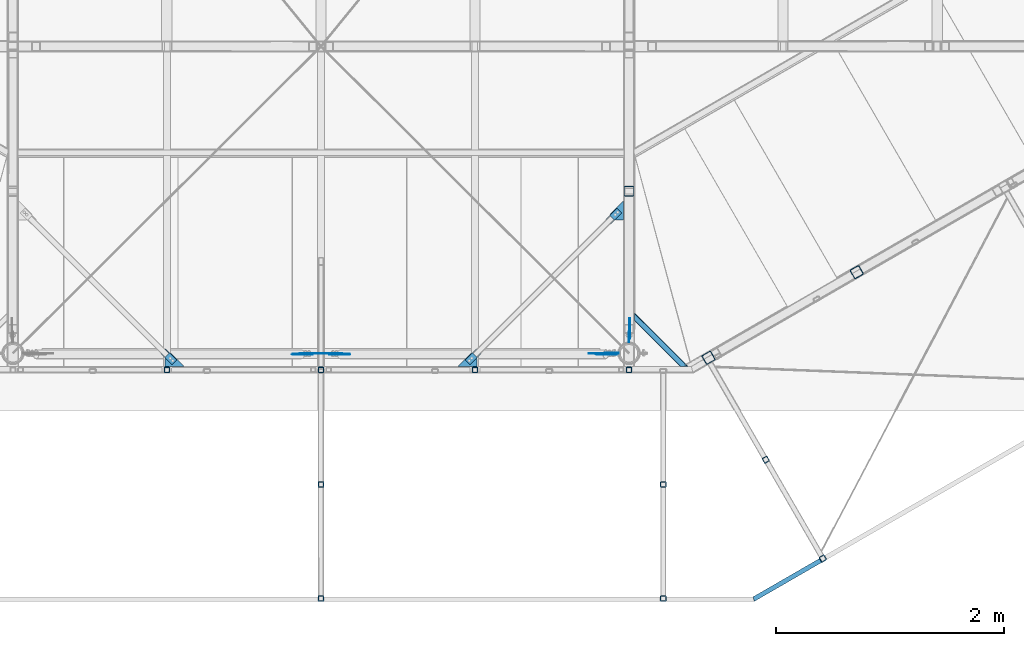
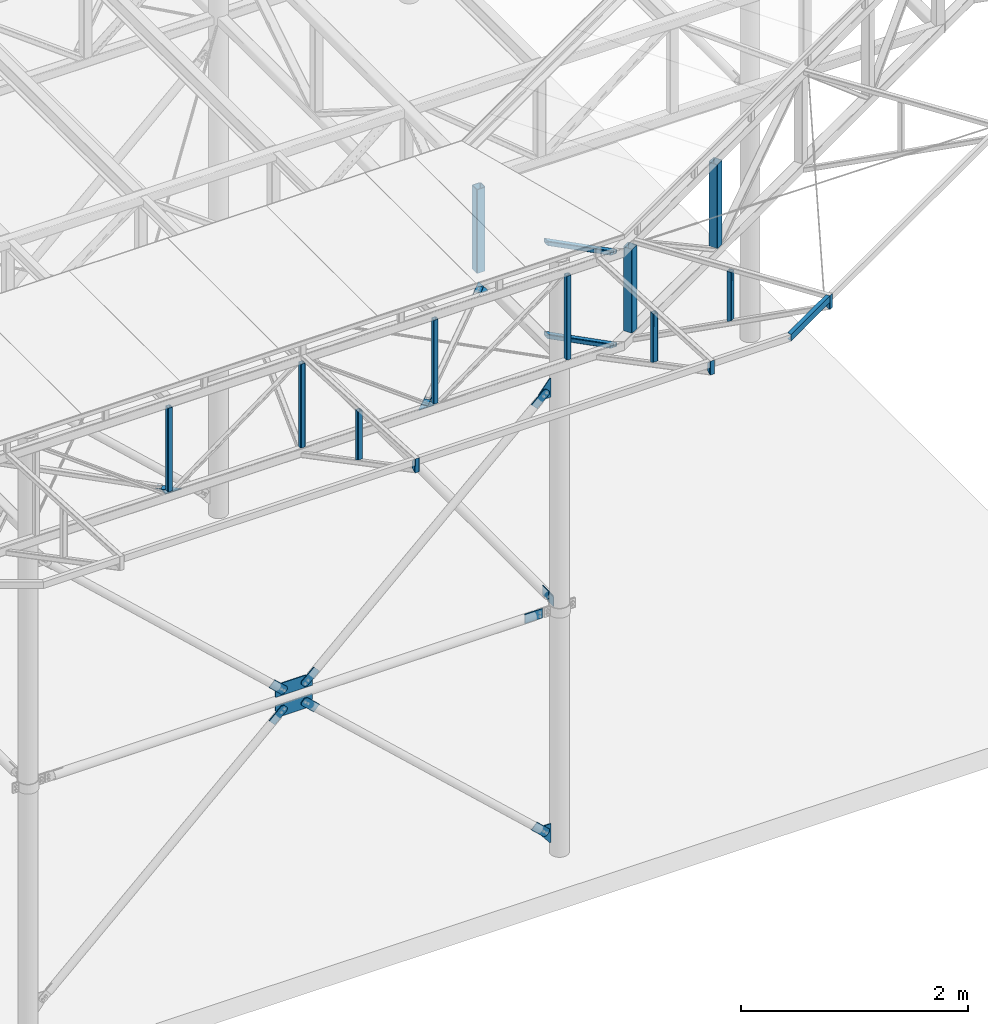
# One storey, part 77 of 132: 35 discrete accessories, 15 elements without a shape of their own.
"""IFC2X3 building model written with IfcOpenShell, lengths in millimetres."""

import ifcopenshell
import ifcopenshell.guid

model = None  # the IFC model being written
_history = None  # IfcOwnerHistory: only IFC2X3 demands one
_inside = {}  # id of a spatial element -> (the spatial element, [elements in it])
_under = {}  # id of a project, library or spatial element -> (it, [spatial elements below it])
_declared = {}  # id of a project -> (the project, [libraries it declares])
_typed = {}  # id of a type object -> (the type object, [elements of that type])
_made_of = {}  # id of a material, layer set ... -> (it, [elements and type objects made of it])


def new_model(schema):
    """Start an empty IFC model of exactly this schema.

    Asked for "IFC4X3", IfcOpenShell would pick the latest addendum, in which some entities
    have other attributes; the version numbers below select the first issue.
    IFC2X3 requires an IfcOwnerHistory on every rooted entity: one is made here for all.
    """
    global model, _history
    if schema == "IFC4X3":
        model = ifcopenshell.file(schema_version=(4, 3, 0, 0))
    else:
        model = ifcopenshell.file(schema=schema)
    _inside.clear()
    _under.clear()
    _declared.clear()
    _typed.clear()
    _made_of.clear()
    _history = None
    if model.schema == "IFC2X3":
        org = make("IfcOrganization", Name="unknown")
        user = make(
            "IfcPersonAndOrganization",
            ThePerson=make("IfcPerson", FamilyName="unknown"),
            TheOrganization=org,
        )
        app = make(
            "IfcApplication",
            ApplicationDeveloper=org,
            Version="unknown",
            ApplicationFullName="unknown",
            ApplicationIdentifier="unknown",
        )
        _history = make(
            "IfcOwnerHistory",
            OwningUser=user,
            OwningApplication=app,
            ChangeAction="ADDED",
            CreationDate=0,
        )
    return model


def make(cls, **values):
    """One entity of the class cls with the attributes given. An attribute that is None is left unset."""
    return model.create_entity(
        cls, **{name: value for name, value in values.items() if value is not None}
    )


def rooted(cls, **values):
    """An entity with a GlobalId (a new one), such as an element, a storey or a relation."""
    return make(cls, GlobalId=ifcopenshell.guid.new(), OwnerHistory=_history, **values)


def si_unit(unit_type, name, prefix=None):
    """IfcSIUnit, for example si_unit("LENGTHUNIT", "METRE", prefix="MILLI")."""
    return make("IfcSIUnit", UnitType=unit_type, Prefix=prefix, Name=name)


def assignment(units):
    """IfcUnitAssignment: the units of a project."""
    return None if units is None else make("IfcUnitAssignment", Units=units)


def point(xyz):
    """IfcCartesianPoint."""
    return None if xyz is None else make("IfcCartesianPoint", Coordinates=xyz)


def direction(xyz):
    """IfcDirection."""
    return None if xyz is None else make("IfcDirection", DirectionRatios=xyz)


def frame(location, z_axis=None, x_axis=None):
    """IfcAxis2Placement3D, a coordinate frame: its origin and axes. An axis left out is left unset."""
    return make(
        "IfcAxis2Placement3D",
        Location=point(location),
        Axis=direction(z_axis),
        RefDirection=direction(x_axis),
    )


def frame_2d(location, x_axis=None):
    """IfcAxis2Placement2D, a coordinate frame in the plane: its origin and x axis."""
    return make(
        "IfcAxis2Placement2D", Location=point(location), RefDirection=direction(x_axis)
    )


def origin_with_axes():
    """The frame at (0, 0, 0) with the z axis (0, 0, 1) and the x axis (1, 0, 0) written out."""
    return frame((0.0, 0.0, 0.0), z_axis=(0.0, 0.0, 1.0), x_axis=(1.0, 0.0, 0.0))


def origin_2d_with_axis():
    """The frame at (0, 0) in the plane with the x axis (1, 0) written out."""
    return frame_2d((0.0, 0.0), x_axis=(1.0, 0.0))


def place(relative_to, where):
    """IfcLocalPlacement: puts the frame where relative to a parent placement (None: the world)."""
    return make(
        "IfcLocalPlacement", PlacementRelTo=relative_to, RelativePlacement=where
    )


def context(
    kind, dimensions, precision=None, world=None, true_north=None, identifier=None
):
    """IfcGeometricRepresentationContext, for example the 3D "Model" context."""
    return make(
        "IfcGeometricRepresentationContext",
        ContextIdentifier=identifier,
        ContextType=kind,
        CoordinateSpaceDimension=dimensions,
        Precision=precision,
        WorldCoordinateSystem=world,
        TrueNorth=true_north,
    )


def subcontext(parent, identifier, kind, view, scale=None):
    """IfcGeometricRepresentationSubContext, for example "Body" below "Model"."""
    return make(
        "IfcGeometricRepresentationSubContext",
        ContextIdentifier=identifier,
        ContextType=kind,
        ParentContext=parent,
        TargetScale=scale,
        TargetView=view,
    )


def project(units=None, contexts=None):
    """IfcProject with its units and contexts."""
    return rooted(
        "IfcProject",
        Name="project",
        RepresentationContexts=contexts,
        UnitsInContext=assignment(units),
    )


def spatial(cls, under=None, at=None, **own):
    """A site, building, storey or space (cls), placed at a placement, below another one or the project."""
    s = rooted(cls, ObjectPlacement=at, **own)
    if under is not None:
        _under.setdefault(under.id(), (under, []))[1].append(s)
    return s


def polyline(points):
    """IfcPolyline through the points."""
    return make("IfcPolyline", Points=[point(p) for p in points])


def profile(cls, at=None, kind="AREA", **sizes):
    """A parametric profile (cls). Its sizes go by their IFC names, for example OverallWidth=200.0."""
    return make(cls, ProfileType=kind, Position=at, **sizes)


def rectangle(**sizes):
    """IfcRectangleProfileDef."""
    return profile("IfcRectangleProfileDef", **sizes)


def hollow_rectangle(**sizes):
    """IfcRectangleHollowProfileDef."""
    return profile("IfcRectangleHollowProfileDef", **sizes)


def u_section(**sizes):
    """IfcUShapeProfileDef."""
    return profile("IfcUShapeProfileDef", **sizes)


def outline(outer, holes=None, kind="AREA"):
    """IfcArbitraryClosedProfileDef: a profile drawn as a closed curve; with holes, ...WithVoids."""
    if holes is None:
        return make("IfcArbitraryClosedProfileDef", ProfileType=kind, OuterCurve=outer)
    return make(
        "IfcArbitraryProfileDefWithVoids",
        ProfileType=kind,
        OuterCurve=outer,
        InnerCurves=holes,
    )


def extrude(swept, where, along, depth):
    """IfcExtrudedAreaSolid: the profile swept, set in the frame where, extruded along a direction by depth."""
    return make(
        "IfcExtrudedAreaSolid",
        SweptArea=swept,
        Position=where,
        ExtrudedDirection=direction(along),
        Depth=depth,
    )


def boolean(op, a, b):
    """IfcBooleanResult of two solids."""
    return make("IfcBooleanResult", Operator=op, FirstOperand=a, SecondOperand=b)


def clip(a, b, op="DIFFERENCE"):
    """IfcBooleanClippingResult: the solid a cut by the half space b."""
    return make(
        "IfcBooleanClippingResult", Operator=op, FirstOperand=a, SecondOperand=b
    )


def halfspace(plane, agree):
    """IfcHalfSpaceSolid: all space on one side of the plane z = 0 of the frame plane."""
    return make(
        "IfcHalfSpaceSolid",
        BaseSurface=make("IfcPlane", Position=plane),
        AgreementFlag=agree,
    )


def shape(context_of_items, identifier, shape_type, items):
    """IfcShapeRepresentation: the items that make up one representation, for example the "Body"."""
    return make(
        "IfcShapeRepresentation",
        ContextOfItems=context_of_items,
        RepresentationIdentifier=identifier,
        RepresentationType=shape_type,
        Items=items,
    )


def material(Name=None, Category=None):
    """IfcMaterial."""
    return make("IfcMaterial", Name=Name, Category=Category)


def made_of(thing, what):
    """Note that an element or type object is made of a material, layer set ...; save() writes the relation."""
    if what is not None:
        _made_of.setdefault(what.id(), (what, []))[1].append(thing)
    return thing


def type_object(cls, material=None, **own):
    """A type object (cls), such as IfcWallType, which elements share."""
    return made_of(rooted(cls, **own), material)


def element(
    cls,
    number,
    at=None,
    inside=None,
    cuts=None,
    type_object=None,
    material=None,
    context=None,
    identifier="Body",
    shape_type=None,
    held_by="IfcProductDefinitionShape",
    body=None,
    shapes=None,
    **own,
):
    """One element of the class cls, such as IfcWall. Its Tag is "e" and its number.

    at: its placement. inside: the storey or other place that contains it. cuts: it is an
    opening in that element (IfcRelVoidsElement). A single representation is given by context,
    identifier, shape_type and body (its items); several are given by shapes. held_by: the class
    of the entity that holds the representations. save() writes the other relations.
    """
    e = rooted(cls, Tag="e%d" % number, ObjectPlacement=at, **own)
    if body is not None:
        shapes = [shape(context, identifier, shape_type, body)]
    if shapes is not None:
        e.Representation = make(held_by, Representations=shapes)
    if inside is not None:
        _inside.setdefault(inside.id(), (inside, []))[1].append(e)
    if cuts is not None:
        rooted(
            "IfcRelVoidsElement", RelatingBuildingElement=cuts, RelatedOpeningElement=e
        )
    if type_object is not None:
        _typed.setdefault(type_object.id(), (type_object, []))[1].append(e)
    return made_of(e, material)


def aggregate(whole, parts):
    """IfcRelAggregates: a whole, such as a stair, and the parts it consists of."""
    return rooted("IfcRelAggregates", RelatingObject=whole, RelatedObjects=parts)


def save(model, path):
    """Write the relations noted so far, then the file.

    IfcRelAggregates (storeys below a building ...), IfcRelContainedInSpatialStructure (elements
    in a storey), IfcRelDefinesByType, IfcRelAssociatesMaterial and IfcRelDeclares: one each for
    every whole, place, type object, material and project.
    """
    for whole, parts in _under.values():
        aggregate(whole, parts)
    for where, things in _inside.values():
        rooted(
            "IfcRelContainedInSpatialStructure",
            RelatedElements=things,
            RelatingStructure=where,
        )
    for kind, things in _typed.values():
        rooted("IfcRelDefinesByType", RelatedObjects=things, RelatingType=kind)
    for what, things in _made_of.values():
        rooted("IfcRelAssociatesMaterial", RelatedObjects=things, RelatingMaterial=what)
    for by, libraries in _declared.values():
        rooted("IfcRelDeclares", RelatingContext=by, RelatedDefinitions=libraries)
    model.write(path)


model = new_model("IFC2X3")

# Units and contexts
model_context = context("Model", 3, precision=1e-05, world=origin_with_axes())
body_context = subcontext(model_context, "Body", "Model", "MODEL_VIEW")
ifc_project = project(units=[si_unit("LENGTHUNIT", "METRE", prefix="MILLI"), si_unit("AREAUNIT", "SQUARE_METRE"), si_unit("VOLUMEUNIT", "CUBIC_METRE"), si_unit("MASSUNIT", "GRAM", prefix="KILO"), si_unit("TIMEUNIT", "SECOND"), si_unit("PLANEANGLEUNIT", "RADIAN"), si_unit("SOLIDANGLEUNIT", "STERADIAN"), si_unit("THERMODYNAMICTEMPERATUREUNIT", "DEGREE_CELSIUS"), si_unit("LUMINOUSINTENSITYUNIT", "LUMEN")], contexts=[model_context])

# Site, building, storey
site_placement = place(None, origin_with_axes())
site = spatial("IfcSite", under=ifc_project, at=site_placement, Name="Budowa", CompositionType="ELEMENT")
building_placement = place(site_placement, origin_with_axes())
building = spatial("IfcBuilding", under=site, at=building_placement, Name="Undefined", CompositionType="ELEMENT")
storey_placement = place(building_placement, origin_with_axes())
storey = spatial("IfcBuildingStorey", under=building, at=storey_placement, Name="Undefined", CompositionType="ELEMENT", Elevation=0.0)

# Assembly, discrete accessory
assembly_1_placement = place(storey_placement, origin_with_axes())
assembly_1 = element("IfcElementAssembly", 1, at=assembly_1_placement, inside=storey, Name="Steel Assembly", AssemblyPlace="NOTDEFINED", PredefinedType="RIGID_FRAME")
ifc_material = material(Name="STEEL/S235")
discrete_accessory_type_1 = type_object("IfcDiscreteAccessoryType", Name="BLACHA")
discrete_accessory_1_placement = place(assembly_1_placement, frame((12311.4051663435, -2.00000288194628, 10071.5503790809), z_axis=(0.0, -1.0, 0.0), x_axis=(-1.0, 0.0, 0.0)))
discrete_accessory_1 = element("IfcDiscreteAccessory", 2, at=discrete_accessory_1_placement, type_object=discrete_accessory_type_1, material=ifc_material, Name="BLACHA", ObjectType="BL8*133", context=body_context, shape_type="SweptSolid", body=[
    extrude(outline(polyline([(0.0, 0.0), (372.807678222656, 0.0), (372.807678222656, 62.396900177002), (307.666687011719, 132.913940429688), (65.1409759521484, 132.913940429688), (0.0, 62.396900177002), (0.0, 0.0)])), frame((0.0, 0.0, -4.0), z_axis=(0.0, 0.0, 1.0), x_axis=(1.0, 0.0, 0.0)), (0.0, 0.0, 1.0), 8.0),
])

assembly_2_placement = place(storey_placement, origin_with_axes())
assembly_2 = element("IfcElementAssembly", 3, at=assembly_2_placement, inside=storey, Name="Steel Assembly", AssemblyPlace="NOTDEFINED", PredefinedType="RIGID_FRAME")
discrete_accessory_2_placement = place(assembly_2_placement, frame((12256.5937293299, -10.0000028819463, 10052.9793451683), z_axis=(0.0, -1.0, 0.0), x_axis=(-0.999215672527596, 0.0, -0.0395984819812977)))
discrete_accessory_2 = element("IfcDiscreteAccessory", 4, at=discrete_accessory_2_placement, type_object=discrete_accessory_type_1, material=ifc_material, Name="BLACHA", ObjectType="BL8*86", context=body_context, shape_type="SweptSolid", body=[
    extrude(outline(polyline([(0.0, 0.0), (28.2842712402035, 3.27418092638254e-11), (60.8111839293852, 32.5269126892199), (60.8111839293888, 60.8111839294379), (-59.3969688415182, 181.019332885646), (-120.20815277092, 120.208152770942), (0.0, 0.0)])), frame((0.0, 0.0, -4.0), z_axis=(0.0, 0.0, 1.0), x_axis=(1.0, 0.0, 0.0)), (0.0, 0.0, 1.0), 8.0),
])

assembly_3_placement = place(storey_placement, origin_with_axes())
assembly_3 = element("IfcElementAssembly", 5, at=assembly_3_placement, inside=storey, Name="Steel Assembly", AssemblyPlace="NOTDEFINED", PredefinedType="RIGID_FRAME")
discrete_accessory_3_placement = place(assembly_3_placement, frame((12051.7643931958, -10.0000028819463, 9989.80782337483), z_axis=(0.0, -1.0, 0.0), x_axis=(0.0395984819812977, 0.0, 0.999215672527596)))
discrete_accessory_3 = element("IfcDiscreteAccessory", 6, at=discrete_accessory_3_placement, type_object=discrete_accessory_type_1, material=ifc_material, Name="BLACHA", ObjectType="BL8*86", context=body_context, shape_type="SweptSolid", body=[
    extrude(outline(polyline([(0.0, 0.0), (28.2842712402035, 3.27418092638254e-11), (60.8111839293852, 32.5269126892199), (60.8111839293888, 60.8111839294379), (-59.3969688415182, 181.019332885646), (-120.20815277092, 120.208152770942), (0.0, 0.0)])), frame((0.0, 0.0, -4.0), z_axis=(0.0, 0.0, 1.0), x_axis=(1.0, 0.0, 0.0)), (0.0, 0.0, 1.0), 8.0),
])
aggregate(assembly_3, [discrete_accessory_3])

assembly_4_placement = place(storey_placement, origin_with_axes())
assembly_4 = element("IfcElementAssembly", 7, at=assembly_4_placement, inside=storey, Name="Steel Assembly", AssemblyPlace="NOTDEFINED", PredefinedType="RIGID_FRAME")
discrete_accessory_4_placement = place(assembly_4_placement, frame((11993.4089373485, -10.0000031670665, 10179.021413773), z_axis=(0.0, -1.0, 0.0), x_axis=(0.999215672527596, 0.0, 0.0395984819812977)))
discrete_accessory_4 = element("IfcDiscreteAccessory", 8, at=discrete_accessory_4_placement, type_object=discrete_accessory_type_1, material=ifc_material, Name="BLACHA", ObjectType="BL8*86", context=body_context, shape_type="SweptSolid", body=[
    extrude(outline(polyline([(0.0, 0.0), (28.2842712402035, 3.27418092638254e-11), (60.8111839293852, 32.5269126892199), (60.8111839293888, 60.8111839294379), (-59.3969688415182, 181.019332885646), (-120.20815277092, 120.208152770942), (0.0, 0.0)])), frame((0.0, 0.0, -4.0), z_axis=(0.0, 0.0, 1.0), x_axis=(1.0, 0.0, 0.0)), (0.0, 0.0, 1.0), 8.0),
])
aggregate(assembly_4, [discrete_accessory_4])

assembly_5_placement = place(storey_placement, origin_with_axes())
assembly_5 = element("IfcElementAssembly", 9, at=assembly_5_placement, inside=storey, Name="Steel Assembly", AssemblyPlace="NOTDEFINED", PredefinedType="RIGID_FRAME")
discrete_accessory_5_placement = place(assembly_5_placement, frame((12198.2382714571, -10.0000031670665, 10242.1929274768), z_axis=(0.0, -1.0, 0.0), x_axis=(-0.0395984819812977, 0.0, -0.999215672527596)))
discrete_accessory_5 = element("IfcDiscreteAccessory", 10, at=discrete_accessory_5_placement, type_object=discrete_accessory_type_1, material=ifc_material, Name="BLACHA", ObjectType="BL8*86", context=body_context, shape_type="SweptSolid", body=[
    extrude(outline(polyline([(0.0, 0.0), (28.2842712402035, 3.27418092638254e-11), (60.8111839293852, 32.5269126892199), (60.8111839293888, 60.8111839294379), (-59.3969688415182, 181.019332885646), (-120.20815277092, 120.208152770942), (0.0, 0.0)])), frame((0.0, 0.0, -4.0), z_axis=(0.0, 0.0, 1.0), x_axis=(1.0, 0.0, 0.0)), (0.0, 0.0, 1.0), 8.0),
])

# Discrete accessory
discrete_accessory_6_placement = place(assembly_1_placement, frame((11938.5974989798, -2.00000316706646, 10160.4503767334), z_axis=(0.0, -1.0, 0.0), x_axis=(1.0, 0.0, 0.0)))
discrete_accessory_6 = element("IfcDiscreteAccessory", 11, at=discrete_accessory_6_placement, type_object=discrete_accessory_type_1, material=ifc_material, Name="BLACHA", ObjectType="BL8*133", context=body_context, shape_type="SweptSolid", body=[
    extrude(outline(polyline([(0.0, 0.0), (372.807678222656, 0.0), (372.807678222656, 62.396900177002), (307.666687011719, 132.913940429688), (65.1409759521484, 132.913940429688), (0.0, 62.396900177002), (0.0, 0.0)])), frame((0.0, 0.0, -4.0), z_axis=(0.0, 0.0, 1.0), x_axis=(1.0, 0.0, 0.0)), (0.0, 0.0, 1.0), 8.0),
])

# Assembly, discrete accessory
assembly_6_placement = place(storey_placement, origin_with_axes())
assembly_6 = element("IfcElementAssembly", 12, at=assembly_6_placement, inside=storey, Name="Steel Assembly", AssemblyPlace="NOTDEFINED", PredefinedType="RIGID_FRAME")
discrete_accessory_7_placement = place(assembly_6_placement, frame((14832.9999969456, 127.907905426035, 10116.0003779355), z_axis=(-1.0, 0.0, 0.0), x_axis=(0.0, 1.0, 0.0)))
discrete_accessory_7 = element("IfcDiscreteAccessory", 13, at=discrete_accessory_7_placement, type_object=discrete_accessory_type_1, material=ifc_material, Name="BLACHA", ObjectType="BL8*100", context=body_context, shape_type="SweptSolid", body=[
    extrude(outline(polyline([(0.0, 50.0), (180.0, 50.0), (180.0, -50.0), (0.0, -50.0), (0.0, 50.0)])), frame((0.0, 0.0, -4.0), z_axis=(0.0, 0.0, 1.0), x_axis=(1.0, 0.0, 0.0)), (0.0, 0.0, 1.0), 8.0),
])
aggregate(assembly_6, [discrete_accessory_7])

assembly_7_placement = place(storey_placement, origin_with_axes())
assembly_7 = element("IfcElementAssembly", 14, at=assembly_7_placement, inside=storey, Name="Steel Assembly", AssemblyPlace="NOTDEFINED", PredefinedType="RIGID_FRAME")
discrete_accessory_8_placement = place(assembly_7_placement, frame((14824.9999969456, 97.9956434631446, 10166.0003762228), z_axis=(1.0, 0.0, 0.0), x_axis=(0.0, 0.0, -1.0)))
discrete_accessory_8 = element("IfcDiscreteAccessory", 15, at=discrete_accessory_8_placement, type_object=discrete_accessory_type_1, material=ifc_material, Name="BLACHA", ObjectType="BL8*90", context=body_context, shape_type="SweptSolid", body=[
    extrude(outline(polyline([(0.0, 0.0), (100.0, 0.0), (100.0, 89.9122619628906), (0.0, 89.9122619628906), (0.0, 0.0)])), frame((0.0, 0.0, -4.0), z_axis=(0.0, 0.0, 1.0), x_axis=(1.0, 0.0, 0.0)), (0.0, 0.0, 1.0), 8.0),
])
aggregate(assembly_7, [discrete_accessory_8])

# Discrete accessory
discrete_accessory_9_placement = place(assembly_1_placement, frame((14651.863305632, -2.00000054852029, 10116.0003779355), z_axis=(0.0, 1.0, 0.0), x_axis=(-1.0, 0.0, 0.0)))
discrete_accessory_9 = element("IfcDiscreteAccessory", 16, at=discrete_accessory_9_placement, type_object=discrete_accessory_type_1, material=ifc_material, Name="BLACHA", ObjectType="BL8*100", context=body_context, shape_type="SweptSolid", body=[
    extrude(outline(polyline([(180.0, -50.0), (0.0, -50.0), (0.0, 50.0), (180.0, 50.0), (180.0, -50.0)])), frame((0.0, 0.0, -4.0), z_axis=(0.0, 0.0, 1.0), x_axis=(1.0, 0.0, 0.0)), (0.0, 0.0, 1.0), 8.0),
])

aggregate(assembly_1, [discrete_accessory_1, discrete_accessory_6, discrete_accessory_9])

discrete_accessory_10_placement = place(assembly_5_placement, frame((14702.6899626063, -10.0000023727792, 12497.1715521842), z_axis=(-0.678551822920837, 0.0, 0.734552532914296), x_axis=(-0.734552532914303, 0.0, -0.67855182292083)))
discrete_accessory_10 = element("IfcDiscreteAccessory", 17, at=discrete_accessory_10_placement, type_object=discrete_accessory_type_1, material=ifc_material, Name="BLACHA", ObjectType="BL8*86", context=body_context, shape_type="CSG", body=[
    boolean("DIFFERENCE", boolean("DIFFERENCE", extrude(rectangle(XDim=8.0, YDim=86.0, at=origin_2d_with_axis()), frame((190.000000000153, -3.63797880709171e-12, 3.30513394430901e-13), z_axis=(-1.0, 0.0, 0.0), x_axis=(0.0, -1.0, 0.0)), (0.0, 0.0, 1.0), 190.0), extrude(outline(polyline([(0.0, 0.0), (20.0000000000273, -3.63797880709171e-12), (5.45696821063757e-12, 20.0000000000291), (0.0, 0.0)])), frame((-1.81898940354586e-12, -6.50000242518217, -42.9999999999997), z_axis=(0.0, 1.0, 0.0), x_axis=(0.0, 0.0, 1.0)), (0.0, 0.0, 1.0), 13.0)), extrude(outline(polyline([(0.0, 0.0), (20.0000000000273, -3.63797880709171e-12), (5.45696821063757e-12, 20.0000000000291), (0.0, 0.0)])), frame((-1.81898940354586e-12, 6.49999757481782, 42.9999999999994), z_axis=(0.0, -1.0, 0.0), x_axis=(0.0, 0.0, -1.0)), (0.0, 0.0, 1.0), 13.0)),
])

aggregate(assembly_5, [discrete_accessory_5, discrete_accessory_10])

# Assembly, discrete accessory
assembly_8_placement = place(storey_placement, origin_with_axes())
assembly_8 = element("IfcElementAssembly", 18, at=assembly_8_placement, inside=storey, Name="Steel Assembly", AssemblyPlace="NOTDEFINED", PredefinedType="RIGID_FRAME")
discrete_accessory_11_placement = place(assembly_8_placement, frame((14736.1000002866, -0.000999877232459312, 12407.0002670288), z_axis=(0.0, -1.0, 0.0), x_axis=(0.0, 0.0, 1.0)))
discrete_accessory_11 = element("IfcDiscreteAccessory", 19, at=discrete_accessory_11_placement, type_object=discrete_accessory_type_1, material=ifc_material, Name="BLACHA", ObjectType="BL8*126", context=body_context, shape_type="SweptSolid", body=[
    extrude(outline(polyline([(0.0, 0.0), (203.000061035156, 0.0), (203.000061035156, 10.0), (58.0005645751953, 125.999824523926), (-1.72803993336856e-10, 72.998420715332), (0.0, 0.0)])), frame((0.0, 0.0, -4.0), z_axis=(0.0, 0.0, 1.0), x_axis=(1.0, 0.0, 0.0)), (0.0, 0.0, 1.0), 8.0),
])

# Discrete accessory
discrete_accessory_12_placement = place(assembly_2_placement, frame((14702.689963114, -10.0000026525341, 7734.82920317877), z_axis=(0.678551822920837, 0.0, 0.734552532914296), x_axis=(-0.734552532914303, 0.0, 0.67855182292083)))
discrete_accessory_12 = element("IfcDiscreteAccessory", 20, at=discrete_accessory_12_placement, type_object=discrete_accessory_type_1, material=ifc_material, Name="BLACHA", ObjectType="BL8*86", context=body_context, shape_type="CSG", body=[
    boolean("DIFFERENCE", boolean("DIFFERENCE", extrude(rectangle(XDim=8.0, YDim=86.0, at=origin_2d_with_axis()), frame((190.000000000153, -3.63797880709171e-12, 3.30513394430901e-13), z_axis=(-1.0, 0.0, 0.0), x_axis=(0.0, -1.0, 0.0)), (0.0, 0.0, 1.0), 190.0), extrude(outline(polyline([(0.0, 0.0), (20.0000000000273, -3.63797880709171e-12), (5.45696821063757e-12, 20.0000000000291), (0.0, 0.0)])), frame((-1.81898940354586e-12, 6.49999757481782, 42.9999999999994), z_axis=(0.0, -1.0, 0.0), x_axis=(0.0, 0.0, -1.0)), (0.0, 0.0, 1.0), 13.0)), extrude(outline(polyline([(0.0, 0.0), (20.0000000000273, -3.63797880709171e-12), (5.45696821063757e-12, 20.0000000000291), (0.0, 0.0)])), frame((-1.81898940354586e-12, -6.50000242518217, -42.9999999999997), z_axis=(0.0, 1.0, 0.0), x_axis=(0.0, 0.0, 1.0)), (0.0, 0.0, 1.0), 13.0)),
])

aggregate(assembly_2, [discrete_accessory_2, discrete_accessory_12])

discrete_accessory_13_placement = place(assembly_8_placement, frame((14736.1000003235, -0.000999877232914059, 7622.0004196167), z_axis=(0.0, -1.0, 0.0), x_axis=(0.0, 0.0, 1.0)))
discrete_accessory_13 = element("IfcDiscreteAccessory", 21, at=discrete_accessory_13_placement, type_object=discrete_accessory_type_1, material=ifc_material, Name="BLACHA", ObjectType="BL8*126", context=body_context, shape_type="SweptSolid", body=[
    extrude(outline(polyline([(0.0, 0.0), (203.000061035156, 0.0), (203.000076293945, 72.998420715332), (145.000457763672, 125.999824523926), (0.0, 10.0), (0.0, 0.0)])), frame((0.0, 0.0, -4.0), z_axis=(0.0, 0.0, 1.0), x_axis=(1.0, 0.0, 0.0)), (0.0, 0.0, 1.0), 8.0),
])

aggregate(assembly_8, [discrete_accessory_11, discrete_accessory_13])

# Assembly, discrete accessory
assembly_9_placement = place(storey_placement, origin_with_axes())
assembly_9 = element("IfcElementAssembly", 22, at=assembly_9_placement, inside=storey, Name="Steel Assembly", AssemblyPlace="NOTDEFINED", PredefinedType="RIGID_FRAME")
discrete_accessory_14_placement = place(assembly_9_placement, frame((13488.1949511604, 40.521358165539, 12830.0), z_axis=(0.0, 0.0, 1.0), x_axis=(-0.70710678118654, -0.707106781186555, 0.0)))
discrete_accessory_14 = element("IfcDiscreteAccessory", 23, at=discrete_accessory_14_placement, type_object=discrete_accessory_type_1, material=ifc_material, Name="BLACHA", ObjectType="BL6*60", context=body_context, shape_type="SweptSolid", body=[
    extrude(outline(polyline([(0.0, 0.0), (139.99999999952, -6.2755134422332e-10), (139.99999999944, 59.9999999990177), (0.0, 60.0), (-8.00355337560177e-11, 54.9999999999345), (49.9999999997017, 54.9999999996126), (49.9999999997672, 4.99999999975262), (-8.73114913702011e-11, 5.00000000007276), (0.0, 0.0)])), frame((0.0, 0.0, -3.0), z_axis=(0.0, 0.0, 1.0), x_axis=(1.0, 0.0, 0.0)), (0.0, 0.0, 1.0), 6.0),
])

assembly_10_placement = place(storey_placement, origin_with_axes())
assembly_10 = element("IfcElementAssembly", 24, at=assembly_10_placement, inside=storey, Name="Steel Assembly", AssemblyPlace="NOTDEFINED", PredefinedType="RIGID_FRAME")
discrete_accessory_15_placement = place(assembly_10_placement, frame((13325.7025252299, -114.899999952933, 12824.0), z_axis=(0.0, 0.0, 1.0), x_axis=(1.0, 0.0, 0.0)))
discrete_accessory_15 = element("IfcDiscreteAccessory", 25, at=discrete_accessory_15_placement, type_object=discrete_accessory_type_1, material=ifc_material, Name="BLACHA", ObjectType="BL6*117", context=body_context, shape_type="SweptSolid", body=[
    extrude(outline(polyline([(0.0, 0.0), (166.027954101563, 0.0), (166.027954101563, 67.0330123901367), (116.530487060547, 116.530487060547), (0.0, 0.0)])), frame((0.0, 0.0, -3.0), z_axis=(0.0, 0.0, 1.0), x_axis=(1.0, 0.0, 0.0)), (0.0, 0.0, 1.0), 6.0),
])

# Discrete accessory
discrete_accessory_16_placement = place(assembly_9_placement, frame((14662.0050487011, 1129.47864196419, 12830.0), z_axis=(0.0, 0.0, 1.0), x_axis=(0.707106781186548, 0.707106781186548, 0.0)))
discrete_accessory_16 = element("IfcDiscreteAccessory", 26, at=discrete_accessory_16_placement, type_object=discrete_accessory_type_1, material=ifc_material, Name="BLACHA", ObjectType="BL6*60", context=body_context, shape_type="SweptSolid", body=[
    extrude(outline(polyline([(0.0, 0.0), (139.99999999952, -6.2755134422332e-10), (139.99999999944, 59.9999999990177), (0.0, 60.0), (-8.00355337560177e-11, 54.9999999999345), (49.9999999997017, 54.9999999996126), (49.9999999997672, 4.99999999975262), (-8.73114913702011e-11, 5.00000000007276), (0.0, 0.0)])), frame((0.0, 0.0, -3.0), z_axis=(0.0, 0.0, 1.0), x_axis=(1.0, 0.0, 0.0)), (0.0, 0.0, 1.0), 6.0),
])

aggregate(assembly_9, [discrete_accessory_14, discrete_accessory_16])

discrete_accessory_17_placement = place(assembly_10_placement, frame((14774.999999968, 1168.36951682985, 12824.0), z_axis=(0.0, 0.0, 1.0), x_axis=(0.0, 1.0, 0.0)))
discrete_accessory_17 = element("IfcDiscreteAccessory", 27, at=discrete_accessory_17_placement, type_object=discrete_accessory_type_1, material=ifc_material, Name="BLACHA", ObjectType="BL6*117", context=body_context, shape_type="SweptSolid", body=[
    extrude(outline(polyline([(0.0, 0.0), (166.027954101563, 0.0), (49.4974746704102, 116.530487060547), (0.0, 67.0330123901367), (0.0, 0.0)])), frame((0.0, 0.0, -3.0), z_axis=(0.0, 0.0, 1.0), x_axis=(1.0, 0.0, 0.0)), (0.0, 0.0, 1.0), 6.0),
])

# Assembly, discrete accessory
assembly_11_placement = place(storey_placement, origin_with_axes())
assembly_11 = element("IfcElementAssembly", 28, at=assembly_11_placement, inside=storey, Name="Steel Assembly", AssemblyPlace="NOTDEFINED", PredefinedType="RIGID_FRAME")
discrete_accessory_18_placement = place(assembly_11_placement, frame((10719.3786418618, -1.90504868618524, 12830.0), z_axis=(0.0, 0.0, 1.0), x_axis=(0.707106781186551, -0.707106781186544, 0.0)))
discrete_accessory_18 = element("IfcDiscreteAccessory", 29, at=discrete_accessory_18_placement, type_object=discrete_accessory_type_1, material=ifc_material, Name="BLACHA", ObjectType="BL6*60", context=body_context, shape_type="SweptSolid", body=[
    extrude(outline(polyline([(0.0, 0.0), (139.99999999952, -6.2755134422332e-10), (139.99999999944, 59.9999999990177), (0.0, 60.0), (-8.00355337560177e-11, 54.9999999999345), (49.9999999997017, 54.9999999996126), (49.9999999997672, 4.99999999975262), (-8.73114913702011e-11, 5.00000000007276), (0.0, 0.0)])), frame((0.0, 0.0, -3.0), z_axis=(0.0, 0.0, 1.0), x_axis=(1.0, 0.0, 0.0)), (0.0, 0.0, 1.0), 6.0),
])
aggregate(assembly_11, [discrete_accessory_18])

# Discrete accessory
discrete_accessory_19_placement = place(assembly_10_placement, frame((10758.2695167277, -114.899999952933, 12824.0), z_axis=(0.0, 0.0, 1.0), x_axis=(1.0, 0.0, 0.0)))
discrete_accessory_19 = element("IfcDiscreteAccessory", 30, at=discrete_accessory_19_placement, type_object=discrete_accessory_type_1, material=ifc_material, Name="BLACHA", ObjectType="BL6*117", context=body_context, shape_type="SweptSolid", body=[
    extrude(outline(polyline([(0.0, 0.0), (166.027954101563, 0.0), (49.4974746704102, 116.530487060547), (0.0, 67.0330123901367), (0.0, 0.0)])), frame((0.0, 0.0, -3.0), z_axis=(0.0, 0.0, 1.0), x_axis=(1.0, 0.0, 0.0)), (0.0, 0.0, 1.0), 6.0),
])

# Assembly, discrete accessory
assembly_12_placement = place(storey_placement, origin_with_axes())
assembly_12 = element("IfcElementAssembly", 31, at=assembly_12_placement, inside=storey, Name="Steel Assembly", AssemblyPlace="NOTDEFINED", PredefinedType="RIGID_FRAME")
discrete_accessory_type_2 = type_object("IfcDiscreteAccessoryType", Name="BEAM")
discrete_accessory_20_placement = place(assembly_12_placement, frame((15682.2692903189, -2290.81696645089, 13945.0050192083), z_axis=(0.0, 0.0, -1.0), x_axis=(0.866042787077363, 0.499969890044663, 0.0)))
discrete_accessory_20 = element("IfcDiscreteAccessory", 32, at=discrete_accessory_20_placement, type_object=discrete_accessory_type_2, material=ifc_material, Name="BEAM", ObjectType="C70*40*4", context=body_context, shape_type="Clipping", body=[
    clip(extrude(u_section(Depth=70.0, FlangeWidth=40.0, WebThickness=4.0, FlangeThickness=4.0, FilletRadius=6.0, at=origin_2d_with_axis()), frame((950.000000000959, 1.82248795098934e-14, 0.0), z_axis=(-1.0, 0.0, 0.0), x_axis=(0.0, -1.0, 0.0)), (0.0, 0.0, 1.0), 710.63), halfspace(frame((277.00813989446, -20.0000000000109, 0.0), z_axis=(-0.965930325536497, -0.258802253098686, 0.0), x_axis=(0.0, 0.0, -1.0)), False)),
])
aggregate(assembly_12, [discrete_accessory_20])

# Assembly, discrete accessories
assembly_13_placement = place(storey_placement, origin_with_axes())
assembly_13 = element("IfcElementAssembly", 33, at=assembly_13_placement, inside=storey, Name="Steel Assembly", AssemblyPlace="NOTDEFINED", PredefinedType="RIGID_FRAME")
discrete_accessory_21_placement = place(assembly_13_placement, frame((16024.1912682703, -932.973322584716, 13878.94002838), z_axis=(0.866042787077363, 0.499969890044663, 0.0), x_axis=(0.0, 0.0, -1.0)))
discrete_accessory_21 = element("IfcDiscreteAccessory", 34, at=discrete_accessory_21_placement, type_object=discrete_accessory_type_2, material=ifc_material, Name="BEAM", ObjectType="SHS50*4", context=body_context, shape_type="Clipping", body=[
    clip(clip(extrude(hollow_rectangle(XDim=50.0, YDim=50.0, WallThickness=4.0, InnerFilletRadius=4.0, OuterFilletRadius=8.0, at=origin_2d_with_axis()), frame((545.085010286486, 0.0, 0.0), z_axis=(-1.0, 0.0, 0.0), x_axis=(0.0, -1.0, 0.0)), (0.0, 0.0, 1.0), 559.36), halfspace(frame((536.667324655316, 11.6203888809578, 999.999999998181), z_axis=(-0.885407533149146, 0.464815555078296, 0.0), x_axis=(-0.464815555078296, -0.885407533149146, 0.0)), True)), halfspace(frame((0.185048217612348, -1.24844042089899, 999.999999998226), z_axis=(0.998752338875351, -0.0499376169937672, 0.0), x_axis=(0.0499376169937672, 0.998752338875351, 0.0)), True)),
])
discrete_accessory_22_placement = place(assembly_13_placement, frame((16524.1611583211, -1799.0161096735, 13979.9998397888), z_axis=(0.866042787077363, 0.499969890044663, 0.0), x_axis=(0.0, 0.0, -1.0)))
discrete_accessory_22 = element("IfcDiscreteAccessory", 35, at=discrete_accessory_22_placement, type_object=discrete_accessory_type_2, material=ifc_material, Name="BEAM", ObjectType="SHS50*4", context=body_context, shape_type="Clipping", body=[
    clip(clip(extrude(hollow_rectangle(XDim=50.0, YDim=50.0, WallThickness=4.0, InnerFilletRadius=4.0, OuterFilletRadius=8.0, at=origin_2d_with_axis()), frame((176.695154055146, 0.0, 0.0), z_axis=(-1.0, 0.0, 0.0), x_axis=(0.0, -1.0, 0.0)), (0.0, 0.0, 1.0), 192.23), halfspace(frame((149.999998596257, -25.0000000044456, 4.06544131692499e-09), z_axis=(0.855808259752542, 0.517293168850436, 0.0), x_axis=(0.0, 0.0, 1.0)), False)), halfspace(frame((-0.00517941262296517, -25.0000000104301, 1.04982973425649e-08), z_axis=(-0.689225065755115, 0.724547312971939, 0.0), x_axis=(0.0, 0.0, -1.0)), False)),
])
aggregate(assembly_13, [discrete_accessory_21, discrete_accessory_22])

assembly_14_placement = place(storey_placement, origin_with_axes())
assembly_14 = element("IfcElementAssembly", 36, at=assembly_14_placement, inside=storey, Name="Steel Assembly", AssemblyPlace="NOTDEFINED", PredefinedType="RIGID_FRAME")
discrete_accessory_23_placement = place(assembly_14_placement, frame((15124.9999999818, -1150.00038125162, 13878.9400283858), z_axis=(1.0, 0.0, 0.0), x_axis=(0.0, 0.0, -1.0)))
discrete_accessory_23 = element("IfcDiscreteAccessory", 37, at=discrete_accessory_23_placement, type_object=discrete_accessory_type_2, material=ifc_material, Name="BEAM", ObjectType="SHS50*4", context=body_context, shape_type="Clipping", body=[
    clip(clip(extrude(hollow_rectangle(XDim=50.0, YDim=50.0, WallThickness=4.0, InnerFilletRadius=4.0, OuterFilletRadius=8.0, at=origin_2d_with_axis()), frame((545.085010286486, 0.0, 0.0), z_axis=(-1.0, 0.0, 0.0), x_axis=(0.0, -1.0, 0.0)), (0.0, 0.0, 1.0), 559.36), halfspace(frame((536.667324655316, 11.6203888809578, 999.999999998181), z_axis=(-0.885407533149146, 0.464815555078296, 0.0), x_axis=(-0.464815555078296, -0.885407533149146, 0.0)), True)), halfspace(frame((0.185048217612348, -1.24844042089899, 999.999999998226), z_axis=(0.998752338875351, -0.0499376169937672, 0.0), x_axis=(0.0499376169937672, 0.998752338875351, 0.0)), True)),
])
discrete_accessory_24_placement = place(assembly_14_placement, frame((15124.9999999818, -2150.00038125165, 13979.9998397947), z_axis=(1.0, 0.0, 0.0), x_axis=(0.0, 0.0, -1.0)))
discrete_accessory_24 = element("IfcDiscreteAccessory", 38, at=discrete_accessory_24_placement, type_object=discrete_accessory_type_2, material=ifc_material, Name="BEAM", ObjectType="SHS50*4", context=body_context, shape_type="Clipping", body=[
    clip(clip(extrude(hollow_rectangle(XDim=50.0, YDim=50.0, WallThickness=4.0, InnerFilletRadius=4.0, OuterFilletRadius=8.0, at=origin_2d_with_axis()), frame((176.695154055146, 0.0, 0.0), z_axis=(-1.0, 0.0, 0.0), x_axis=(0.0, -1.0, 0.0)), (0.0, 0.0, 1.0), 192.23), halfspace(frame((149.999998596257, -25.0000000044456, 4.06544131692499e-09), z_axis=(0.855808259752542, 0.517293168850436, 0.0), x_axis=(0.0, 0.0, 1.0)), False)), halfspace(frame((-0.00517941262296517, -25.0000000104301, 1.04982973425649e-08), z_axis=(-0.689225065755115, 0.724547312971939, 0.0), x_axis=(0.0, 0.0, -1.0)), False)),
])
aggregate(assembly_14, [discrete_accessory_23, discrete_accessory_24])

assembly_15_placement = place(storey_placement, origin_with_axes())
assembly_15 = element("IfcElementAssembly", 39, at=assembly_15_placement, inside=storey, Name="Steel Assembly", AssemblyPlace="NOTDEFINED", PredefinedType="RIGID_FRAME")
discrete_accessory_25_placement = place(assembly_15_placement, frame((12124.9999999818, -1150.00038124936, 13878.940028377), z_axis=(1.0, 0.0, 0.0), x_axis=(0.0, 0.0, -1.0)))
discrete_accessory_25 = element("IfcDiscreteAccessory", 40, at=discrete_accessory_25_placement, type_object=discrete_accessory_type_2, material=ifc_material, Name="BEAM", ObjectType="SHS50*4", context=body_context, shape_type="Clipping", body=[
    clip(clip(extrude(hollow_rectangle(XDim=50.0, YDim=50.0, WallThickness=4.0, InnerFilletRadius=4.0, OuterFilletRadius=8.0, at=origin_2d_with_axis()), frame((545.085010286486, 0.0, 0.0), z_axis=(-1.0, 0.0, 0.0), x_axis=(0.0, -1.0, 0.0)), (0.0, 0.0, 1.0), 559.36), halfspace(frame((536.667324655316, 11.6203888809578, 999.999999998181), z_axis=(-0.885407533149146, 0.464815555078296, 0.0), x_axis=(-0.464815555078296, -0.885407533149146, 0.0)), True)), halfspace(frame((0.185048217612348, -1.24844042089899, 999.999999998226), z_axis=(0.998752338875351, -0.0499376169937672, 0.0), x_axis=(0.0499376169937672, 0.998752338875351, 0.0)), True)),
])
discrete_accessory_26_placement = place(assembly_15_placement, frame((12124.9999999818, -2150.00038124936, 13979.9998397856), z_axis=(1.0, 0.0, 0.0), x_axis=(0.0, 0.0, -1.0)))
discrete_accessory_26 = element("IfcDiscreteAccessory", 41, at=discrete_accessory_26_placement, type_object=discrete_accessory_type_2, material=ifc_material, Name="BEAM", ObjectType="SHS50*4", context=body_context, shape_type="Clipping", body=[
    clip(clip(extrude(hollow_rectangle(XDim=50.0, YDim=50.0, WallThickness=4.0, InnerFilletRadius=4.0, OuterFilletRadius=8.0, at=origin_2d_with_axis()), frame((176.695154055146, 0.0, 0.0), z_axis=(-1.0, 0.0, 0.0), x_axis=(0.0, -1.0, 0.0)), (0.0, 0.0, 1.0), 192.23), halfspace(frame((149.999998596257, -25.0000000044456, 4.06544131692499e-09), z_axis=(0.855808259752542, 0.517293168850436, 0.0), x_axis=(0.0, 0.0, 1.0)), False)), halfspace(frame((-0.00517941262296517, -25.0000000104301, 1.04982973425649e-08), z_axis=(-0.689225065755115, 0.724547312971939, 0.0), x_axis=(0.0, 0.0, -1.0)), False)),
])
aggregate(assembly_15, [discrete_accessory_25, discrete_accessory_26])

# Discrete accessory
discrete_accessory_27_placement = place(assembly_10_placement, frame((16821.1286373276, 710.761942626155, 12880.0), z_axis=(0.0, 0.0, 1.0), x_axis=(0.499969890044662, -0.866042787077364, 0.0)))
discrete_accessory_27 = element("IfcDiscreteAccessory", 42, at=discrete_accessory_27_placement, type_object=discrete_accessory_type_2, material=ifc_material, Name="BEAM", ObjectType="SHS90*4", context=body_context, shape_type="Clipping", body=[
    clip(clip(extrude(hollow_rectangle(XDim=90.0, YDim=90.0, WallThickness=4.0, InnerFilletRadius=4.0, OuterFilletRadius=8.0, at=origin_2d_with_axis()), frame((0.0, 0.0, 900.0), z_axis=(0.0, 0.0, -1.0), x_axis=(0.0, 1.0, 0.0)), (0.0, 0.0, 1.0), 900.0), halfspace(frame((1000.0, 0.0, 900.0), z_axis=(0.0, 0.0, -1.0), x_axis=(0.0, 1.0, 0.0)), True)), halfspace(frame((1000.0, 0.0, 0.0), z_axis=(0.0, 0.0, 1.0), x_axis=(0.0, -1.0, 0.0)), True)),
])

discrete_accessory_28_placement = place(assembly_10_placement, frame((15522.0644567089, -39.1928924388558, 12880.0), z_axis=(0.0, 0.0, 1.0), x_axis=(0.499969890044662, -0.866042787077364, 0.0)))
discrete_accessory_28 = element("IfcDiscreteAccessory", 43, at=discrete_accessory_28_placement, type_object=discrete_accessory_type_2, material=ifc_material, Name="BEAM", ObjectType="SHS90*4", context=body_context, shape_type="Clipping", body=[
    clip(clip(extrude(hollow_rectangle(XDim=90.0, YDim=90.0, WallThickness=4.0, InnerFilletRadius=4.0, OuterFilletRadius=8.0, at=origin_2d_with_axis()), frame((0.0, 0.0, 900.0), z_axis=(0.0, 0.0, -1.0), x_axis=(0.0, 1.0, 0.0)), (0.0, 0.0, 1.0), 900.0), halfspace(frame((1000.0, 0.0, 900.0), z_axis=(0.0, 0.0, -1.0), x_axis=(0.0, 1.0, 0.0)), True)), halfspace(frame((1000.0, 0.0, 0.0), z_axis=(0.0, 0.0, 1.0), x_axis=(0.0, -1.0, 0.0)), True)),
])

discrete_accessory_29_placement = place(assembly_10_placement, frame((14824.9999999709, 369.100000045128, 12830.0), z_axis=(0.0, 0.0, 1.0), x_axis=(0.707106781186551, -0.707106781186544, 0.0)))
solid_1 = boolean("DIFFERENCE", extrude(hollow_rectangle(XDim=100.0, YDim=100.0, WallThickness=5.0, InnerFilletRadius=5.0, OuterFilletRadius=10.0, at=origin_2d_with_axis()), frame((2199.68118985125, 5472.49499178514, 1.81898940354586e-12), z_axis=(-0.259884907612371, -0.965639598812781, 0.0), x_axis=(0.965639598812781, -0.259884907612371, 0.0)), (0.0, 0.0, 1.0), 5667.29), halfspace(frame((782.060099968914, 12.727922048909, 1.81898940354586e-12), z_axis=(0.22574645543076, -0.9741860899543, 0.0), x_axis=(-0.9741860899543, -0.22574645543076, 0.0)), False))
discrete_accessory_29 = element("IfcDiscreteAccessory", 44, at=discrete_accessory_29_placement, type_object=discrete_accessory_type_2, material=ifc_material, Name="BEAM", ObjectType="SHS50*4", context=body_context, shape_type="CSG", body=[
    boolean("DIFFERENCE", boolean("DIFFERENCE", boolean("DIFFERENCE", extrude(hollow_rectangle(XDim=50.0, YDim=50.0, WallThickness=4.0, InnerFilletRadius=4.0, OuterFilletRadius=8.0, at=origin_2d_with_axis()), frame((721.003612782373, 9.09494701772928e-13, 1.81898940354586e-12), z_axis=(-1.0, 0.0, 0.0), x_axis=(0.0, -1.0, 0.0)), (0.0, 0.0, 1.0), 686.82), solid_1), halfspace(frame((705.69256762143, 21.2132034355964, 1000.0), z_axis=(-0.707106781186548, 0.707106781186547, 0.0), x_axis=(-0.70710678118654, -0.707106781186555, 0.0)), True)), halfspace(frame((35.3553390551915, 35.3553390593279, 1000.0), z_axis=(0.707106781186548, 0.707106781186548, 0.0), x_axis=(-0.707106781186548, 0.707106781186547, 0.0)), True)),
])

discrete_accessory_30_placement = place(assembly_10_placement, frame((14824.999999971, 369.100000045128, 13830.0), z_axis=(0.0, 0.0, 1.0), x_axis=(0.707106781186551, -0.707106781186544, 0.0)))
solid_2 = boolean("DIFFERENCE", extrude(hollow_rectangle(XDim=100.0, YDim=100.0, WallThickness=5.0, InnerFilletRadius=5.0, OuterFilletRadius=10.0, at=origin_2d_with_axis()), frame((2199.68118985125, 5472.49499178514, 1.81898940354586e-12), z_axis=(-0.259884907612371, -0.965639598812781, 0.0), x_axis=(0.965639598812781, -0.259884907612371, 0.0)), (0.0, 0.0, 1.0), 5667.29), halfspace(frame((782.060099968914, 12.727922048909, 1.81898940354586e-12), z_axis=(0.22574645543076, -0.9741860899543, 0.0), x_axis=(-0.9741860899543, -0.22574645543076, 0.0)), False))
discrete_accessory_30 = element("IfcDiscreteAccessory", 45, at=discrete_accessory_30_placement, type_object=discrete_accessory_type_2, material=ifc_material, Name="BEAM", ObjectType="SHS50*4", context=body_context, shape_type="CSG", body=[
    boolean("DIFFERENCE", boolean("DIFFERENCE", boolean("DIFFERENCE", extrude(hollow_rectangle(XDim=50.0, YDim=50.0, WallThickness=4.0, InnerFilletRadius=4.0, OuterFilletRadius=8.0, at=origin_2d_with_axis()), frame((721.003612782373, 9.09494701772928e-13, 1.81898940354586e-12), z_axis=(-1.0, 0.0, 0.0), x_axis=(0.0, -1.0, 0.0)), (0.0, 0.0, 1.0), 686.82), solid_2), halfspace(frame((705.69256762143, 21.2132034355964, 1000.0), z_axis=(-0.707106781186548, 0.707106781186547, 0.0), x_axis=(-0.70710678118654, -0.707106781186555, 0.0)), True)), halfspace(frame((35.3553390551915, 35.3553390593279, 1000.0), z_axis=(0.707106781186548, 0.707106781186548, 0.0), x_axis=(-0.707106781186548, 0.707106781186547, 0.0)), True)),
])

discrete_accessory_31_placement = place(assembly_10_placement, frame((13474.9999999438, -144.899999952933, 12880.0), z_axis=(0.0, 0.0, 1.0), x_axis=(0.0, -1.0, 0.0)))
discrete_accessory_31 = element("IfcDiscreteAccessory", 46, at=discrete_accessory_31_placement, type_object=discrete_accessory_type_2, material=ifc_material, Name="BEAM", ObjectType="SHS50*5", context=body_context, shape_type="Clipping", body=[
    clip(clip(extrude(hollow_rectangle(XDim=50.0, YDim=50.0, WallThickness=5.0, InnerFilletRadius=5.0, OuterFilletRadius=10.0, at=origin_2d_with_axis()), frame((0.0, 0.0, 900.0), z_axis=(0.0, 0.0, -1.0), x_axis=(0.0, 1.0, 0.0)), (0.0, 0.0, 1.0), 900.0), halfspace(frame((1000.0, 0.0, 900.0), z_axis=(0.0, 0.0, -1.0), x_axis=(0.0, 1.0, 0.0)), True)), halfspace(frame((1000.0, 0.0, 0.0), z_axis=(0.0, 0.0, 1.0), x_axis=(0.0, -1.0, 0.0)), True)),
])

discrete_accessory_32_placement = place(assembly_10_placement, frame((12124.9999999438, -144.899999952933, 12880.0), z_axis=(0.0, 0.0, 1.0), x_axis=(0.0, -1.0, 0.0)))
discrete_accessory_32 = element("IfcDiscreteAccessory", 47, at=discrete_accessory_32_placement, type_object=discrete_accessory_type_2, material=ifc_material, Name="BEAM", ObjectType="SHS50*5", context=body_context, shape_type="Clipping", body=[
    clip(clip(extrude(hollow_rectangle(XDim=50.0, YDim=50.0, WallThickness=5.0, InnerFilletRadius=5.0, OuterFilletRadius=10.0, at=origin_2d_with_axis()), frame((0.0, 0.0, 900.0), z_axis=(0.0, 0.0, -1.0), x_axis=(0.0, 1.0, 0.0)), (0.0, 0.0, 1.0), 900.0), halfspace(frame((1000.0, 0.0, 900.0), z_axis=(0.0, 0.0, -1.0), x_axis=(0.0, 1.0, 0.0)), True)), halfspace(frame((1000.0, 0.0, 0.0), z_axis=(0.0, 0.0, 1.0), x_axis=(0.0, -1.0, 0.0)), True)),
])

discrete_accessory_33_placement = place(assembly_10_placement, frame((10774.9999999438, -144.899999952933, 12880.0), z_axis=(0.0, 0.0, 1.0), x_axis=(0.0, -1.0, 0.0)))
discrete_accessory_33 = element("IfcDiscreteAccessory", 48, at=discrete_accessory_33_placement, type_object=discrete_accessory_type_2, material=ifc_material, Name="BEAM", ObjectType="SHS50*5", context=body_context, shape_type="Clipping", body=[
    clip(clip(extrude(hollow_rectangle(XDim=50.0, YDim=50.0, WallThickness=5.0, InnerFilletRadius=5.0, OuterFilletRadius=10.0, at=origin_2d_with_axis()), frame((0.0, 0.0, 900.0), z_axis=(0.0, 0.0, -1.0), x_axis=(0.0, 1.0, 0.0)), (0.0, 0.0, 1.0), 900.0), halfspace(frame((1000.0, 0.0, 900.0), z_axis=(0.0, 0.0, -1.0), x_axis=(0.0, 1.0, 0.0)), True)), halfspace(frame((1000.0, 0.0, 0.0), z_axis=(0.0, 0.0, 1.0), x_axis=(0.0, -1.0, 0.0)), True)),
])

discrete_accessory_34_placement = place(assembly_10_placement, frame((14824.999999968, -144.899999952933, 12880.0), z_axis=(0.0, 0.0, 1.0), x_axis=(0.0, -1.0, 0.0)))
discrete_accessory_34 = element("IfcDiscreteAccessory", 49, at=discrete_accessory_34_placement, type_object=discrete_accessory_type_2, material=ifc_material, Name="BEAM", ObjectType="SHS50*5", context=body_context, shape_type="Clipping", body=[
    clip(clip(extrude(hollow_rectangle(XDim=50.0, YDim=50.0, WallThickness=5.0, InnerFilletRadius=5.0, OuterFilletRadius=10.0, at=origin_2d_with_axis()), frame((0.0, 0.0, 900.0), z_axis=(0.0, 0.0, -1.0), x_axis=(0.0, 1.0, 0.0)), (0.0, 0.0, 1.0), 900.0), halfspace(frame((1000.0, 0.0, 900.0), z_axis=(0.0, 0.0, -1.0), x_axis=(0.0, 1.0, 0.0)), True)), halfspace(frame((1000.0, 0.0, 0.0), z_axis=(0.0, 0.0, 1.0), x_axis=(0.0, -1.0, 0.0)), True)),
])

discrete_accessory_35_placement = place(assembly_10_placement, frame((14824.999999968, 1420.00000004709, 12880.0), z_axis=(0.0, 0.0, 1.0), x_axis=(-1.0, 0.0, 0.0)))
discrete_accessory_35 = element("IfcDiscreteAccessory", 50, at=discrete_accessory_35_placement, type_object=discrete_accessory_type_2, material=ifc_material, Name="BEAM", ObjectType="SHS90*6", context=body_context, shape_type="Clipping", body=[
    clip(clip(extrude(hollow_rectangle(XDim=90.0, YDim=90.0, WallThickness=6.0, InnerFilletRadius=6.0, OuterFilletRadius=12.0, at=origin_2d_with_axis()), frame((0.0, 0.0, 900.0), z_axis=(0.0, 0.0, -1.0), x_axis=(0.0, 1.0, 0.0)), (0.0, 0.0, 1.0), 900.0), halfspace(frame((1000.0, 0.0, 900.0), z_axis=(0.0, 0.0, -1.0), x_axis=(0.0, 1.0, 0.0)), True)), halfspace(frame((1000.0, 0.0, 0.0), z_axis=(0.0, 0.0, 1.0), x_axis=(0.0, -1.0, 0.0)), True)),
])

aggregate(assembly_10, [discrete_accessory_15, discrete_accessory_17, discrete_accessory_19, discrete_accessory_27, discrete_accessory_28, discrete_accessory_29, discrete_accessory_30, discrete_accessory_31, discrete_accessory_32, discrete_accessory_33, discrete_accessory_34, discrete_accessory_35])

save(model, "model.ifc")
